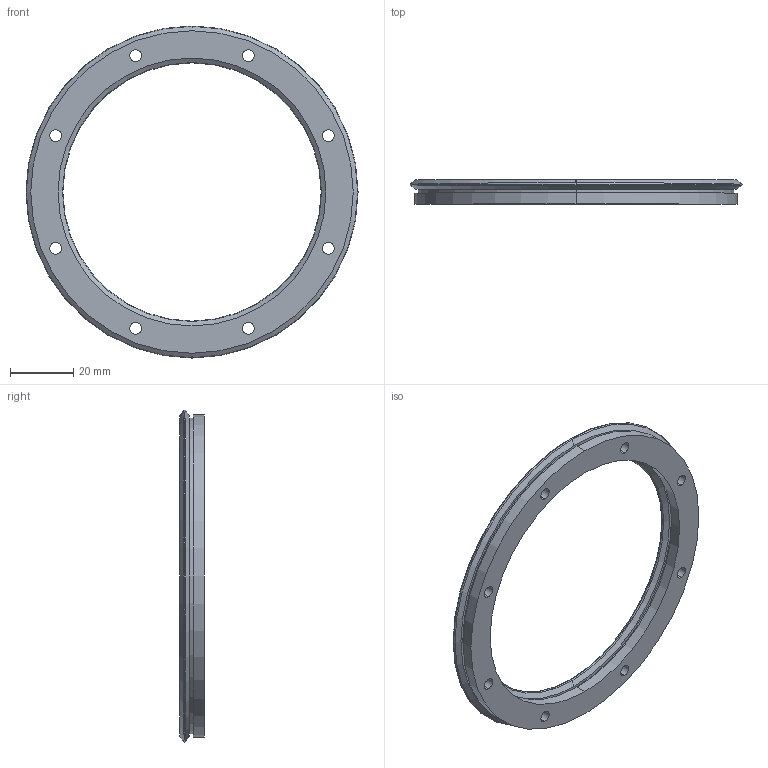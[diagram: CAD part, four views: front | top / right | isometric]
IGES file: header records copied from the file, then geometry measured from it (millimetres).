
Start section: 3D InterOp IGES (v. 2020 1.0.1), Spatial Corp. Copyright (c) 1999-2017.
Global section: file name: r12_93_r360.igs; native system: Spatial Corp.; preprocessor: 3D InterOp ACIS/IGES; author: TraceParts; organization: TraceParts S.A.; date: 20220624.022348; units: millimetre
Bounding box: 104.63 x 7.7 x 104.63 mm (x, y, z)
Surface area: 12256.7 mm2 (no closed solid volume)
Topology: 0 solids, 0 shells, 70 faces, 312 edges, 312 vertices
Faces by surface type: revolution 56, extrusion 14
